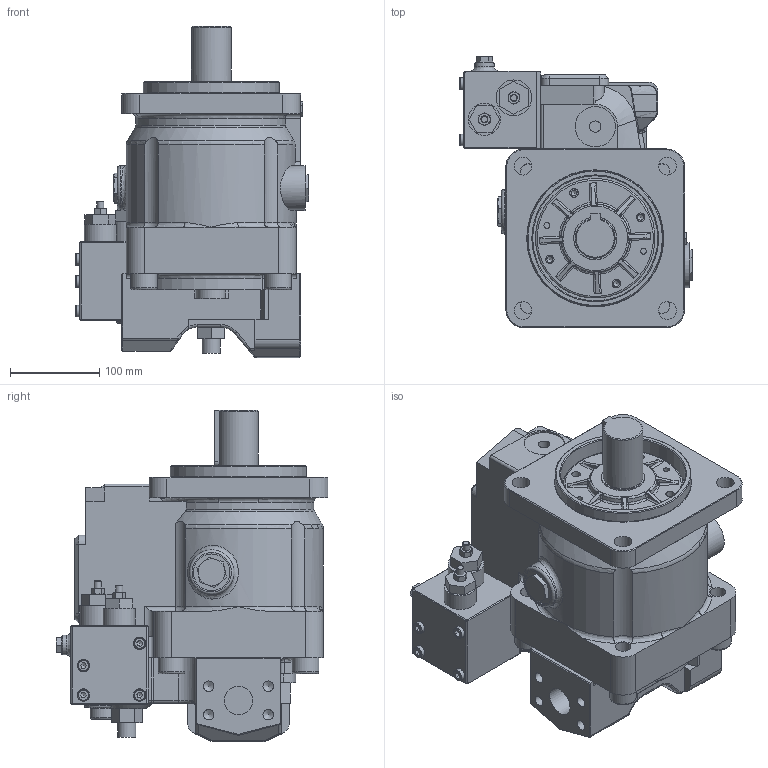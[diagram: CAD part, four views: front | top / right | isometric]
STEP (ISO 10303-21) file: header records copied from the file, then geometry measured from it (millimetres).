
FILE_DESCRIPTION((''),'2;1');
FILE_NAME('J:\Inventor\K3V, M2X\MODEL LIBRARY\K3VL140B 10RKS PO.stp','2008-02-26T11:09:10',('mnorman'),(''),'Autodesk Inventor 2008','Autodesk Inventor 2008','');
FILE_SCHEMA(('AUTOMOTIVE_DESIGN { 1 0 10303 214 1 1 1 1 }'));
Length unit declared in the file: millimetre
Products named in the file (1): Part1
Bounding box: 261 x 304 x 370.6 mm (x, y, z)
Volume: 11281482.7 mm3; surface area: 510150 mm2
Topology: 1 solids, 14 shells, 862 faces, 2054 edges, 1269 vertices
Faces by surface type: plane 381, cylinder 175, bspline 174, cone 93, torus 32, sphere 7
Full cylindrical faces by diameter (mm): 5 x4, 8 x8, 9.5 x4, 12.717 x1, 13 x4, 16 x2, 20 x5, 21 x1, 22 x1, 30 x5, 32 x5, 36 x1, 40 x1, 41 x2, 44.45 x1, 45 x1, 48 x2, 50 x2, 64 x1, 68 x1, 90 x1, 100 x1, 134 x1, 140 x1, 152.4 x1
Entity records: 31012 total; most frequent: CARTESIAN_POINT 12434, ORIENTED_EDGE 3654, DIRECTION 3506, EDGE_CURVE 1827, AXIS2_PLACEMENT_3D 1354, VERTEX_POINT 1201, EDGE_LOOP 1088, FACE_OUTER_BOUND 861
